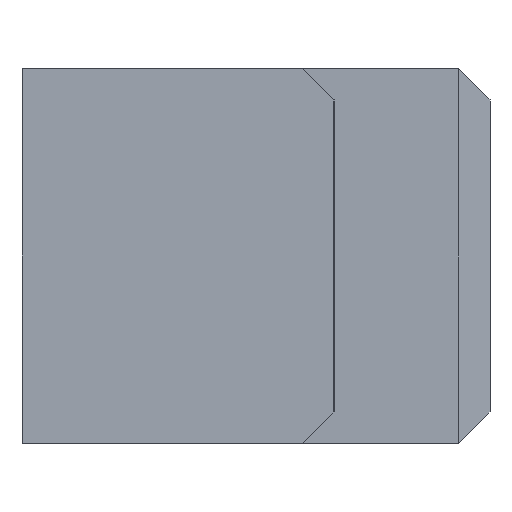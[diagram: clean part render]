
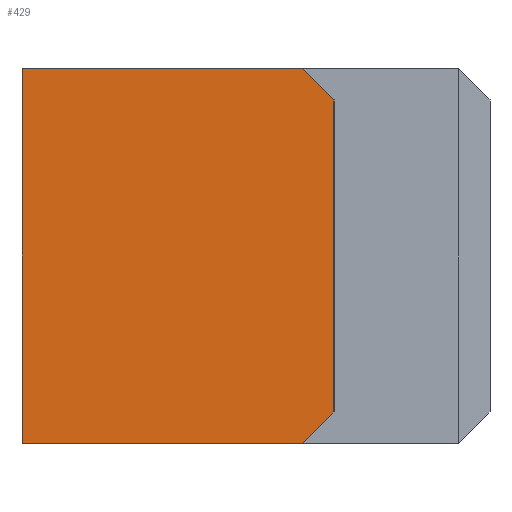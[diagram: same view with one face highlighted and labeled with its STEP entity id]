
A CAD part, left-side view. The second image highlights one B-rep face of the part: STEP entity #429.
In plain terms, the highlighted planar face has unit normal (-1, 0, 0).
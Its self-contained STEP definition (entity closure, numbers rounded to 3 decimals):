
#55=FACE_OUTER_BOUND('',#83,.T.);
#83=EDGE_LOOP('',(#375,#376,#377,#378,#379,#380));
#87=LINE('',#604,#135);
#97=LINE('',#623,#145);
#98=LINE('',#627,#146);
#102=LINE('',#634,#150);
#108=LINE('',#649,#156);
#134=LINE('',#715,#182);
#135=VECTOR('',#490,10.);
#145=VECTOR('',#502,10.);
#146=VECTOR('',#505,10.);
#150=VECTOR('',#511,10.);
#156=VECTOR('',#523,10.);
#182=VECTOR('',#597,10.);
#183=VERTEX_POINT('',#602);
#184=VERTEX_POINT('',#603);
#192=VERTEX_POINT('',#621);
#193=VERTEX_POINT('',#625);
#194=VERTEX_POINT('',#626);
#202=VERTEX_POINT('',#648);
#219=EDGE_CURVE('',#183,#184,#87,.T.);
#229=EDGE_CURVE('',#183,#192,#97,.T.);
#230=EDGE_CURVE('',#193,#194,#98,.T.);
#234=EDGE_CURVE('',#193,#184,#102,.T.);
#241=EDGE_CURVE('',#194,#202,#108,.T.);
#274=EDGE_CURVE('',#202,#192,#134,.T.);
#375=ORIENTED_EDGE('',*,*,#219,.F.);
#376=ORIENTED_EDGE('',*,*,#229,.T.);
#377=ORIENTED_EDGE('',*,*,#274,.F.);
#378=ORIENTED_EDGE('',*,*,#241,.F.);
#379=ORIENTED_EDGE('',*,*,#230,.F.);
#380=ORIENTED_EDGE('',*,*,#234,.T.);
#405=PLANE('',#484);
#429=ADVANCED_FACE('',(#55),#405,.T.);
#484=AXIS2_PLACEMENT_3D('',#714,#595,#596);
#490=DIRECTION('',(0.,-0.707,-0.707));
#502=DIRECTION('',(0.,1.,0.));
#505=DIRECTION('',(0.,0.707,-0.707));
#511=DIRECTION('',(0.,0.,1.));
#523=DIRECTION('',(0.,1.,0.));
#595=DIRECTION('center_axis',(-1.,0.,0.));
#596=DIRECTION('ref_axis',(0.,0.,1.));
#597=DIRECTION('',(0.,0.,1.));
#602=CARTESIAN_POINT('',(-32.,1.,6.));
#603=CARTESIAN_POINT('',(-32.,0.,5.));
#604=CARTESIAN_POINT('',(-32.,-2.5,2.5));
#621=CARTESIAN_POINT('',(-32.,10.,6.));
#623=CARTESIAN_POINT('',(-32.,0.,6.));
#625=CARTESIAN_POINT('',(-32.,0.,-5.));
#626=CARTESIAN_POINT('',(-32.,1.,-6.));
#627=CARTESIAN_POINT('',(-32.,0.5,-5.5));
#634=CARTESIAN_POINT('',(-32.,0.,-6.));
#648=CARTESIAN_POINT('',(-32.,10.,-6.));
#649=CARTESIAN_POINT('',(-32.,0.,-6.));
#714=CARTESIAN_POINT('Origin',(-32.,0.,-6.));
#715=CARTESIAN_POINT('',(-32.,10.,-6.));
